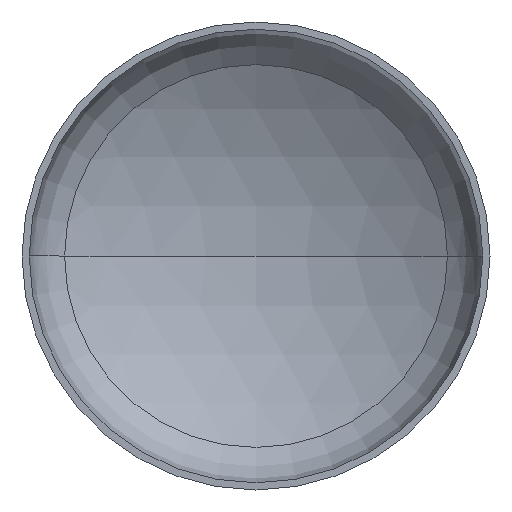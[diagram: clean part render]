
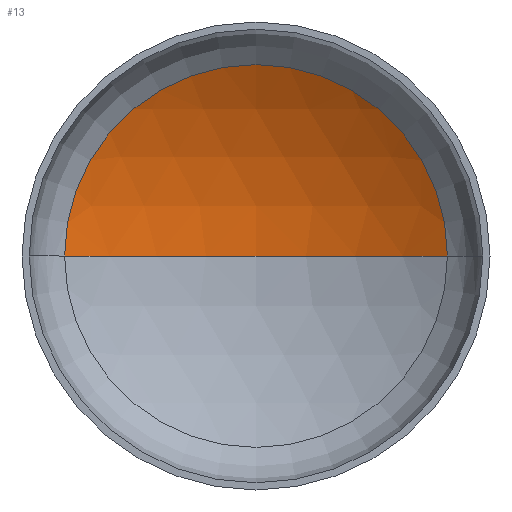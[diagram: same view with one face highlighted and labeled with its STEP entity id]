
A CAD part, front view. The second image highlights one B-rep face of the part: STEP entity #13.
In plain terms, the highlighted spherical face has radius 1760 mm.
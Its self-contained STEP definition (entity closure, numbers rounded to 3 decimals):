
#5 = CARTESIAN_POINT ( 'NONE',  ( 0., 649.621, 0. ) ) ;
#8 = DIRECTION ( 'NONE',  ( 0., 0., 1. ) ) ;
#13 = ADVANCED_FACE ( 'NONE', ( #160 ), #261, .F. ) ;
#16 = CARTESIAN_POINT ( 'NONE',  ( 0., -1110.379, 0. ) ) ;
#17 = EDGE_LOOP ( 'NONE', ( #131, #89, #143 ) ) ;
#26 = CARTESIAN_POINT ( 'NONE',  ( -899.831, 402.203, 0. ) ) ;
#40 = AXIS2_PLACEMENT_3D ( 'NONE', #16, #8, #45 ) ;
#43 = AXIS2_PLACEMENT_3D ( 'NONE', #213, #207, #316 ) ;
#45 = DIRECTION ( 'NONE',  ( 1., 0., 0. ) ) ;
#46 = AXIS2_PLACEMENT_3D ( 'NONE', #229, #227, #228 ) ;
#72 = AXIS2_PLACEMENT_3D ( 'NONE', #275, #302, #288 ) ;
#89 = ORIENTED_EDGE ( 'NONE', *, *, #97, .T. ) ;
#95 = EDGE_CURVE ( 'NONE', #140, #125, #243, .T. ) ;
#97 = EDGE_CURVE ( 'NONE', #154, #140, #180, .T. ) ;
#102 = EDGE_CURVE ( 'NONE', #154, #125, #299, .T. ) ;
#125 = VERTEX_POINT ( 'NONE', #26 ) ;
#131 = ORIENTED_EDGE ( 'NONE', *, *, #102, .F. ) ;
#140 = VERTEX_POINT ( 'NONE', #221 ) ;
#143 = ORIENTED_EDGE ( 'NONE', *, *, #95, .T. ) ;
#154 = VERTEX_POINT ( 'NONE', #5 ) ;
#160 = FACE_OUTER_BOUND ( 'NONE', #17, .T. ) ;
#180 = CIRCLE ( 'NONE', #43, 1760. ) ;
#207 = DIRECTION ( 'NONE',  ( 0., 0., -1. ) ) ;
#213 = CARTESIAN_POINT ( 'NONE',  ( 0., -1110.379, 0. ) ) ;
#221 = CARTESIAN_POINT ( 'NONE',  ( 899.831, 402.203, 0. ) ) ;
#227 = DIRECTION ( 'NONE',  ( 0., -1., 0. ) ) ;
#228 = DIRECTION ( 'NONE',  ( 1., 0., 0. ) ) ;
#229 = CARTESIAN_POINT ( 'NONE',  ( 0., 402.203, 0. ) ) ;
#243 = CIRCLE ( 'NONE', #46, 899.831 ) ;
#261 = SPHERICAL_SURFACE ( 'NONE', #72, 1760. ) ;
#275 = CARTESIAN_POINT ( 'NONE',  ( 0., -1110.379, 0. ) ) ;
#288 = DIRECTION ( 'NONE',  ( -1., 0., 0. ) ) ;
#299 = CIRCLE ( 'NONE', #40, 1760. ) ;
#302 = DIRECTION ( 'NONE',  ( 0., 0., -1. ) ) ;
#316 = DIRECTION ( 'NONE',  ( -1., 0., 0. ) ) ;
